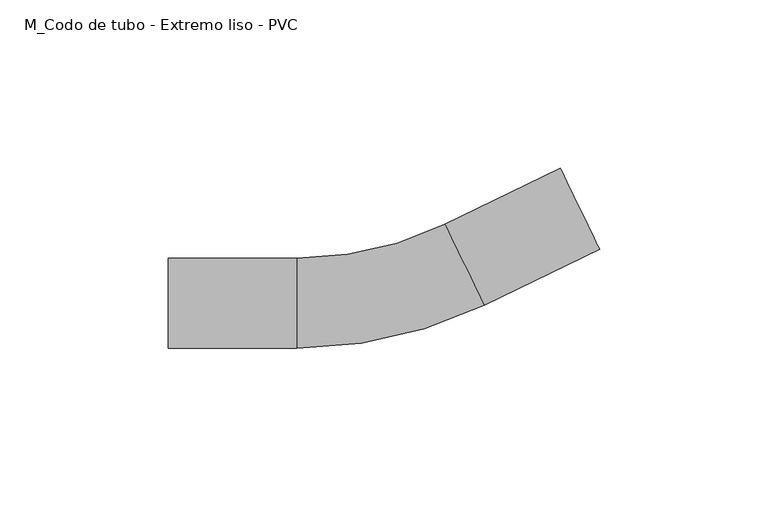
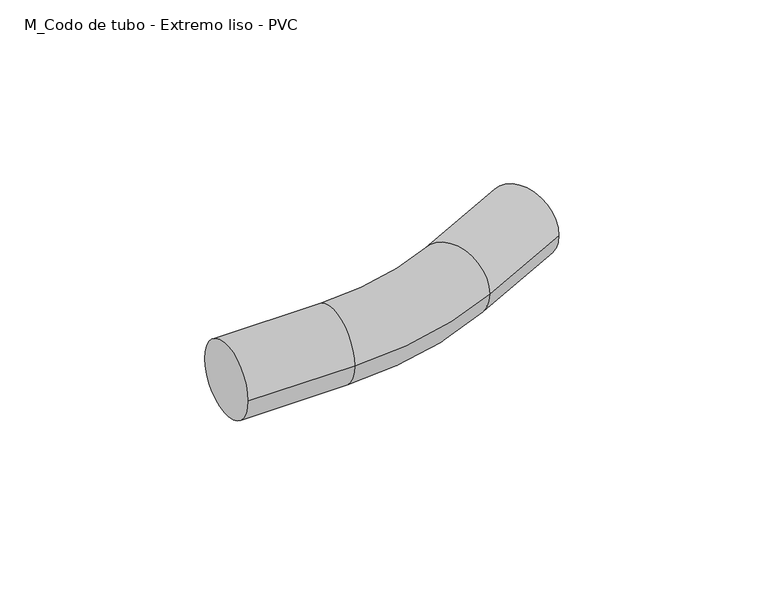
"""IFC4 building model written with IfcOpenShell, lengths in millimetres: cable carrier fitting geometry, M_Codo de tubo - Extremo liso - PVC : CODO ILUMINACION."""

import ifcopenshell
import ifcopenshell.guid

model = None  # the IFC model being written
_history = None  # IfcOwnerHistory: only IFC2X3 demands one
_inside = {}  # id of a spatial element -> (the spatial element, [elements in it])
_under = {}  # id of a project, library or spatial element -> (it, [spatial elements below it])
_declared = {}  # id of a project -> (the project, [libraries it declares])
_typed = {}  # id of a type object -> (the type object, [elements of that type])
_made_of = {}  # id of a material, layer set ... -> (it, [elements and type objects made of it])


def new_model(schema):
    """Start an empty IFC model of exactly this schema.

    Asked for "IFC4X3", IfcOpenShell would pick the latest addendum, in which some entities
    have other attributes; the version numbers below select the first issue.
    IFC2X3 requires an IfcOwnerHistory on every rooted entity: one is made here for all.
    """
    global model, _history
    if schema == "IFC4X3":
        model = ifcopenshell.file(schema_version=(4, 3, 0, 0))
    else:
        model = ifcopenshell.file(schema=schema)
    _inside.clear()
    _under.clear()
    _declared.clear()
    _typed.clear()
    _made_of.clear()
    _history = None
    if model.schema == "IFC2X3":
        org = make("IfcOrganization", Name="unknown")
        user = make(
            "IfcPersonAndOrganization",
            ThePerson=make("IfcPerson", FamilyName="unknown"),
            TheOrganization=org,
        )
        app = make(
            "IfcApplication",
            ApplicationDeveloper=org,
            Version="unknown",
            ApplicationFullName="unknown",
            ApplicationIdentifier="unknown",
        )
        _history = make(
            "IfcOwnerHistory",
            OwningUser=user,
            OwningApplication=app,
            ChangeAction="ADDED",
            CreationDate=0,
        )
    return model


def make(cls, **values):
    """One entity of the class cls with the attributes given. An attribute that is None is left unset."""
    return model.create_entity(
        cls, **{name: value for name, value in values.items() if value is not None}
    )


def rooted(cls, **values):
    """An entity with a GlobalId (a new one), such as an element, a storey or a relation."""
    return make(cls, GlobalId=ifcopenshell.guid.new(), OwnerHistory=_history, **values)


def si_unit(unit_type, name, prefix=None):
    """IfcSIUnit, for example si_unit("LENGTHUNIT", "METRE", prefix="MILLI")."""
    return make("IfcSIUnit", UnitType=unit_type, Prefix=prefix, Name=name)


def assignment(units):
    """IfcUnitAssignment: the units of a project."""
    return None if units is None else make("IfcUnitAssignment", Units=units)


def point(xyz):
    """IfcCartesianPoint."""
    return None if xyz is None else make("IfcCartesianPoint", Coordinates=xyz)


def direction(xyz):
    """IfcDirection."""
    return None if xyz is None else make("IfcDirection", DirectionRatios=xyz)


def frame(location, z_axis=None, x_axis=None):
    """IfcAxis2Placement3D, a coordinate frame: its origin and axes. An axis left out is left unset."""
    return make(
        "IfcAxis2Placement3D",
        Location=point(location),
        Axis=direction(z_axis),
        RefDirection=direction(x_axis),
    )


def origin():
    """The frame at (0, 0, 0) with its axes left unset."""
    return frame((0.0, 0.0, 0.0))


def place(relative_to, where):
    """IfcLocalPlacement: puts the frame where relative to a parent placement (None: the world)."""
    return make(
        "IfcLocalPlacement", PlacementRelTo=relative_to, RelativePlacement=where
    )


def context(
    kind, dimensions, precision=None, world=None, true_north=None, identifier=None
):
    """IfcGeometricRepresentationContext, for example the 3D "Model" context."""
    return make(
        "IfcGeometricRepresentationContext",
        ContextIdentifier=identifier,
        ContextType=kind,
        CoordinateSpaceDimension=dimensions,
        Precision=precision,
        WorldCoordinateSystem=world,
        TrueNorth=true_north,
    )


def project(units=None, contexts=None):
    """IfcProject with its units and contexts."""
    return rooted(
        "IfcProject",
        Name="project",
        RepresentationContexts=contexts,
        UnitsInContext=assignment(units),
    )


def spatial(cls, under=None, at=None, **own):
    """A site, building, storey or space (cls), placed at a placement, below another one or the project."""
    s = rooted(cls, ObjectPlacement=at, **own)
    if under is not None:
        _under.setdefault(under.id(), (under, []))[1].append(s)
    return s


def circle_curve(where, radius):
    """IfcCircle in the frame where."""
    return make("IfcCircle", Position=where, Radius=radius)


def ellipse_curve(where, semi_axis1, semi_axis2):
    """IfcEllipse in the frame where."""
    return make(
        "IfcEllipse", Position=where, SemiAxis1=semi_axis1, SemiAxis2=semi_axis2
    )


def trimmed(basis, trim1, trim2, sense, master):
    """IfcTrimmedCurve: the piece of a basis curve between two trims."""
    return make(
        "IfcTrimmedCurve",
        BasisCurve=basis,
        Trim1=trim1,
        Trim2=trim2,
        SenseAgreement=sense,
        MasterRepresentation=master,
    )


def shape(context_of_items, identifier, shape_type, items):
    """IfcShapeRepresentation: the items that make up one representation, for example the "Body"."""
    return make(
        "IfcShapeRepresentation",
        ContextOfItems=context_of_items,
        RepresentationIdentifier=identifier,
        RepresentationType=shape_type,
        Items=items,
    )


def source(mapping_origin, context_of_items, identifier, shape_type, items):
    """IfcRepresentationMap: a shape defined once, which mapped items show again and again."""
    return make(
        "IfcRepresentationMap",
        MappingOrigin=mapping_origin,
        MappedRepresentation=shape(context_of_items, identifier, shape_type, items),
    )


def transform(
    local_origin,
    x_axis=None,
    y_axis=None,
    z_axis=None,
    scale=None,
    scale2=None,
    scale3=None,
    uniform=True,
):
    """IfcCartesianTransformationOperator3D, or its non-uniform kind. x_axis, y_axis, z_axis: its Axis1, 2, 3."""
    if uniform:
        return make(
            "IfcCartesianTransformationOperator3D",
            Axis1=direction(x_axis),
            Axis2=direction(y_axis),
            LocalOrigin=point(local_origin),
            Scale=scale,
            Axis3=direction(z_axis),
        )
    return make(
        "IfcCartesianTransformationOperator3DnonUniform",
        Axis1=direction(x_axis),
        Axis2=direction(y_axis),
        LocalOrigin=point(local_origin),
        Scale=scale,
        Axis3=direction(z_axis),
        Scale2=scale2,
        Scale3=scale3,
    )


def mapped(mapping_source, mapping_target):
    """IfcMappedItem: shows the shape of a source again, moved by a transform."""
    return make(
        "IfcMappedItem", MappingSource=mapping_source, MappingTarget=mapping_target
    )


def made_of(thing, what):
    """Note that an element or type object is made of a material, layer set ...; save() writes the relation."""
    if what is not None:
        _made_of.setdefault(what.id(), (what, []))[1].append(thing)
    return thing


def element(
    cls,
    number,
    at=None,
    inside=None,
    cuts=None,
    type_object=None,
    material=None,
    context=None,
    identifier="Body",
    shape_type=None,
    held_by="IfcProductDefinitionShape",
    body=None,
    shapes=None,
    **own,
):
    """One element of the class cls, such as IfcWall. Its Tag is "e" and its number.

    at: its placement. inside: the storey or other place that contains it. cuts: it is an
    opening in that element (IfcRelVoidsElement). A single representation is given by context,
    identifier, shape_type and body (its items); several are given by shapes. held_by: the class
    of the entity that holds the representations. save() writes the other relations.
    """
    e = rooted(cls, Tag="e%d" % number, ObjectPlacement=at, **own)
    if body is not None:
        shapes = [shape(context, identifier, shape_type, body)]
    if shapes is not None:
        e.Representation = make(held_by, Representations=shapes)
    if inside is not None:
        _inside.setdefault(inside.id(), (inside, []))[1].append(e)
    if cuts is not None:
        rooted(
            "IfcRelVoidsElement", RelatingBuildingElement=cuts, RelatedOpeningElement=e
        )
    if type_object is not None:
        _typed.setdefault(type_object.id(), (type_object, []))[1].append(e)
    return made_of(e, material)


def aggregate(whole, parts):
    """IfcRelAggregates: a whole, such as a stair, and the parts it consists of."""
    return rooted("IfcRelAggregates", RelatingObject=whole, RelatedObjects=parts)


def save(model, path):
    """Write the relations noted so far, then the file.

    IfcRelAggregates (storeys below a building ...), IfcRelContainedInSpatialStructure (elements
    in a storey), IfcRelDefinesByType, IfcRelAssociatesMaterial and IfcRelDeclares: one each for
    every whole, place, type object, material and project.
    """
    for whole, parts in _under.values():
        aggregate(whole, parts)
    for where, things in _inside.values():
        rooted(
            "IfcRelContainedInSpatialStructure",
            RelatedElements=things,
            RelatingStructure=where,
        )
    for kind, things in _typed.values():
        rooted("IfcRelDefinesByType", RelatedObjects=things, RelatingType=kind)
    for what, things in _made_of.values():
        rooted("IfcRelAssociatesMaterial", RelatedObjects=things, RelatingMaterial=what)
    for by, libraries in _declared.values():
        rooted("IfcRelDeclares", RelatingContext=by, RelatedDefinitions=libraries)
    model.write(path)


def plane_surface(at):
    """IfcPlane: the flat surface through the origin of the frame at, square to its z axis."""
    return make("IfcPlane", Position=at)


def cylinder_surface(at, radius):
    """IfcCylindricalSurface: all points at the distance radius from the z axis of the frame at."""
    return make("IfcCylindricalSurface", Position=at, Radius=radius)


def revolved_surface(curve, axis_point, axis_direction):
    """IfcSurfaceOfRevolution: the curve turned about the line through axis_point along axis_direction."""
    return make(
        "IfcSurfaceOfRevolution",
        SweptCurve=make("IfcArbitraryOpenProfileDef", ProfileType="CURVE", Curve=curve),
        AxisPosition=make("IfcAxis1Placement", Location=point(axis_point), Axis=direction(axis_direction)),
    )


def advanced_brep(points, edges, surfaces, faces):
    """IfcAdvancedBrep: a solid bounded by faces that lie on surfaces and meet in shared edges.

    An edge is (start, end): straight between two places in points (the first is 0);
    or (start, end, curve); or (start, end, curve, False) where it runs against its curve.
    A face is (place in surfaces, loops), or (place, loops, False) where it looks against
    its surface's normal. A loop lists edges by number (the first is 1), with a minus sign
    where the edge is run from its end to its start. The first loop is the outer one.
    """
    corners = [point(p) for p in points]
    vertices = [make("IfcVertexPoint", VertexGeometry=c) for c in corners]
    made = []
    for start, end, *more in edges:
        made.append(
            make(
                "IfcEdgeCurve",
                EdgeStart=vertices[start],
                EdgeEnd=vertices[end],
                EdgeGeometry=more[0] if more else make("IfcPolyline", Points=[corners[start], corners[end]]),
                SameSense=more[1] if len(more) > 1 else True,
            )
        )
    hull = []
    for where, loops, *sense in faces:
        bounds = []
        for j, loop in enumerate(loops):
            ring = [make("IfcOrientedEdge", EdgeElement=made[abs(k) - 1], Orientation=k > 0) for k in loop]
            bounds.append(
                make(
                    "IfcFaceOuterBound" if j == 0 else "IfcFaceBound",
                    Bound=make("IfcEdgeLoop", EdgeList=ring),
                    Orientation=True,
                )
            )
        hull.append(make("IfcAdvancedFace", Bounds=bounds, FaceSurface=surfaces[where], SameSense=sense[0] if sense else True))
    return make("IfcAdvancedBrep", Outer=make("IfcClosedShell", CfsFaces=hull))


def m_codo_de_tubo_extremo_liso_pvc_ea6c4dee(model_context):
    return source(origin(), model_context, "Body", "AdvancedBrep", [
        advanced_brep(
        [(-64.295286, -13.335, 0.0), (-64.295286, 13.335, 0.0), (-26.195286, -13.335, 0.0), (-26.195286, 13.335, 0.0), (17.7736493, 23.4118052, 0.0), (29.3880851, -0.5963972, 0.0), (63.6855171, 15.9956539, 0.0), (52.0710813, 40.0038563, 0.0)],
        [
            (0, 1, circle_curve(frame((-64.295286, 0.0, 0.0), z_axis=(-1.0, 0.0, 0.0), x_axis=(0.0, 1.0, 0.0)), 13.335)),
            (1, 0, circle_curve(frame((-64.295286, 0.0, 0.0), z_axis=(-1.0, 0.0, 0.0), x_axis=(0.0, 1.0, 0.0)), 13.335)),
            (0, 2),
            (2, 3, circle_curve(frame((-26.195286, 0.0, 0.0), z_axis=(-1.0, 0.0, 0.0), x_axis=(0.0, 1.0, 0.0)), 13.335)),
            (3, 1),
            (3, 2, circle_curve(frame((-26.195286, 0.0, 0.0), z_axis=(-1.0, 0.0, 0.0), x_axis=(0.0, 1.0, 0.0)), 13.335)),
            (4, 3, circle_curve(frame((-26.195286, 114.3, 0.0), z_axis=(0.0, 0.0, -1.0), x_axis=(0.0, -1.0, 0.0)), 100.965)),
            (2, 5, circle_curve(frame((-26.195286, 114.3, 0.0), z_axis=(0.0, 0.0, 1.0), x_axis=(0.0, -1.0, 0.0)), 127.635)),
            (5, 4, circle_curve(frame((23.5808672, 11.407704, 0.0), z_axis=(-0.9001950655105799, -0.435486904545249, 0.0), x_axis=(-0.435486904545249, 0.9001950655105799, 0.0)), 13.335)),
            (4, 5, circle_curve(frame((23.5808672, 11.407704, 0.0), z_axis=(-0.9001950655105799, -0.435486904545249, 0.0), x_axis=(-0.435486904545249, 0.9001950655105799, 0.0)), 13.335)),
            (6, 7, circle_curve(frame((57.8782992, 27.9997551, 0.0), z_axis=(0.9001950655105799, 0.43548690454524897, 0.0), x_axis=(-0.43548690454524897, 0.9001950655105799, 0.0)), 13.335)),
            (7, 6, circle_curve(frame((57.8782992, 27.9997551, 0.0), z_axis=(0.9001950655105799, 0.43548690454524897, 0.0), x_axis=(-0.43548690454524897, 0.9001950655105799, 0.0)), 13.335)),
            (5, 6),
            (7, 4),
        ],
        [
            plane_surface(frame((-64.295286, 0.0, 0.0), z_axis=(-1.0, 0.0, 0.0), x_axis=(0.0, 0.0, 1.0))),
            cylinder_surface(frame((-64.295286, 0.0, 0.0), z_axis=(-1.0, 0.0, 0.0), x_axis=(0.0, 1.0, 0.0)), 13.335),
            revolved_surface(trimmed(ellipse_curve(frame((-26.195286, 0.0, 0.0), z_axis=(-1.0, 0.0, 0.0), x_axis=(0.0, 1.0, 0.0)), 13.335, 13.335), [point((-26.195286, -13.335, 0.0))], [point((-26.195286, 13.335, 0.0))], True, "CARTESIAN"), (-26.195286, 114.3, 0.0), (0.0, 0.0, 1.0)),
            revolved_surface(trimmed(ellipse_curve(frame((-26.195286, 0.0, 0.0), z_axis=(-1.0, 0.0, 0.0), x_axis=(0.0, 1.0, 0.0)), 13.335, 13.335), [point((-26.195286, 13.335, 0.0))], [point((-26.195286, -13.335, 0.0))], True, "CARTESIAN"), (-26.195286, 114.3, 0.0), (0.0, 0.0, 1.0)),
            plane_surface(frame((57.8782992, 27.9997551, 0.0), z_axis=(0.9001950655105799, 0.43548690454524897, 0.0), x_axis=(0.0, 0.0, 1.0))),
            cylinder_surface(frame((23.5808672, 11.407704, 0.0), z_axis=(-0.9001950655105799, -0.43548690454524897, 0.0), x_axis=(-0.43548690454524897, 0.9001950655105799, 0.0)), 13.335),
        ],
        [
            (0, [[1, 2]]),
            (1, [[-1, 3, 4, 5]]),
            (1, [[-2, -5, 6, -3]]),
            (2, [[7, -4, 8, 9]]),
            (3, [[-8, -6, -7, 10]]),
            (4, [[11, 12]]),
            (5, [[-9, 13, -12, 14]]),
            (5, [[-10, -14, -11, -13]]),
        ],
    ),
    ])


if __name__ == "__main__":
    model = new_model("IFC4")
    model_context = context("Model", 3, world=origin())
    ifc_project = project(units=[si_unit("LENGTHUNIT", "METRE", prefix="MILLI")], contexts=[model_context])
    site = spatial("IfcSite", under=ifc_project)
    building = spatial("IfcBuilding", under=site)
    placement = place(None, origin())
    m_codo_de_tubo_extremo_liso_pvc_shape = m_codo_de_tubo_extremo_liso_pvc_ea6c4dee(model_context)
    element("IfcCableCarrierFitting", 1, ObjectType="M_Codo de tubo - Extremo liso - PVC : CODO ILUMINACION", at=placement, inside=building, context=model_context, shape_type="MappedRepresentation", body=[
        mapped(m_codo_de_tubo_extremo_liso_pvc_shape, transform((0.0, 0.0, 0.0), x_axis=(1.0, 0.0, 0.0), y_axis=(0.0, 1.0, 0.0), z_axis=(0.0, 0.0, 1.0))),
    ])
    save(model, "model.ifc")
